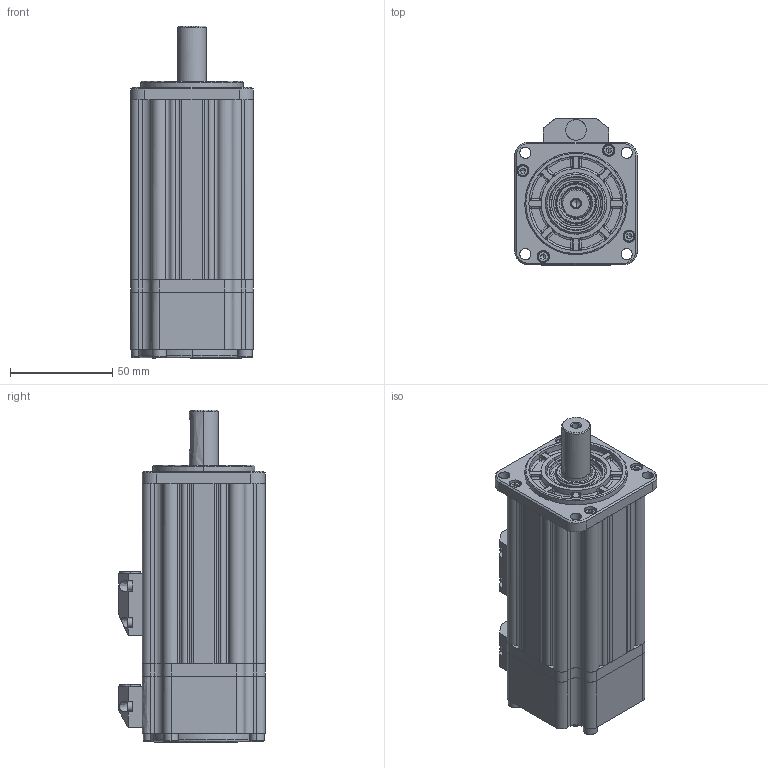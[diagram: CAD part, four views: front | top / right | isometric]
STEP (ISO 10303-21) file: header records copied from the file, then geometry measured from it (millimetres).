
FILE_DESCRIPTION (( 'STEP AP203' ), '1' );
FILE_NAME ('EMJ-04(APB,AFB,AFD)（without holding brake）.STEP', '2020-03-30T02:05:40', ( '' ), ( '' ), 'SwSTEP 2.0', 'SolidWorks 2018', '' );
FILE_SCHEMA (( 'CONFIG_CONTROL_DESIGN' ));
Products named in the file (1): EMJ-04(APB,AFB,AFD)（without holding brake）
Bounding box: 60 x 71.5 x 162.2 mm (x, y, z)
Surface area: 79926.5 mm2 (no closed solid volume)
Topology: 0 solids, 48 shells, 924 faces, 2455 edges, 1553 vertices
Faces by surface type: bspline 924
Entity records: 37757 total; most frequent: CARTESIAN_POINT 24364, ORIENTED_EDGE 4412, EDGE_CURVE 2387, B_SPLINE_CURVE_WITH_KNOTS 1577, VERTEX_POINT 1553, EDGE_LOOP 1019, ADVANCED_FACE 924, FACE_OUTER_BOUND 924
